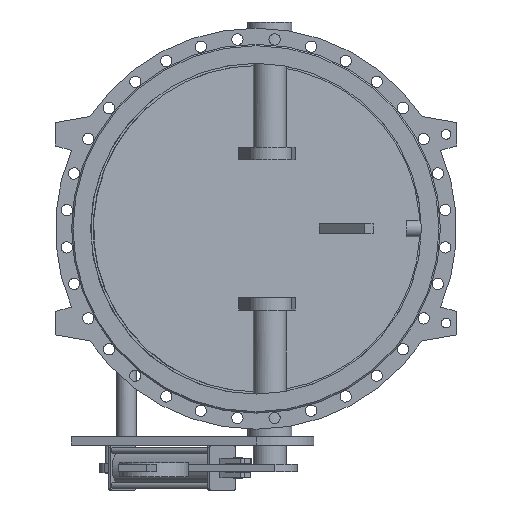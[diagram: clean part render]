
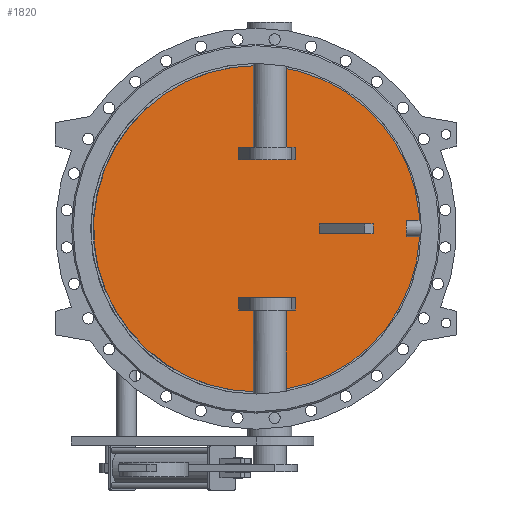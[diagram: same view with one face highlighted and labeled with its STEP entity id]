
A CAD part, front view. The second image highlights one B-rep face of the part: STEP entity #1820.
In plain terms, the highlighted planar face has unit normal (0.131, -0.991, 0).
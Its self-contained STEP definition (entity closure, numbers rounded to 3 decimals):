
#1820=ADVANCED_FACE('',(#4085,#4087,#4089,#4091),#4093,.T.);
#4085=FACE_BOUND('',#4086,.T.);
#4086=EDGE_LOOP('',(#5306));
#4087=FACE_BOUND('',#4088,.T.);
#4088=EDGE_LOOP('',(#5307,#5308,#5309,#5310));
#4089=FACE_BOUND('',#4090,.T.);
#4090=EDGE_LOOP('',(#5311,#5312,#5313,#5314));
#4091=FACE_BOUND('',#4092,.T.);
#4092=EDGE_LOOP('',(#5315,#5316,#5317,#5318));
#4093=PLANE('',#4094);
#4094=AXIS2_PLACEMENT_3D('',#4095,#4096,#4097);
#4095=CARTESIAN_POINT('',(-1.272,9.66,0.));
#4096=DIRECTION('',(0.131,-0.991,0.));
#4097=DIRECTION('',(0.,0.,-1.));
#5306=ORIENTED_EDGE('',*,*,#5855,.T.);
#5307=ORIENTED_EDGE('',*,*,#5872,.F.);
#5308=ORIENTED_EDGE('',*,*,#5873,.F.);
#5309=ORIENTED_EDGE('',*,*,#5874,.F.);
#5310=ORIENTED_EDGE('',*,*,#5875,.F.);
#5311=ORIENTED_EDGE('',*,*,#5876,.F.);
#5312=ORIENTED_EDGE('',*,*,#5877,.F.);
#5313=ORIENTED_EDGE('',*,*,#5878,.F.);
#5314=ORIENTED_EDGE('',*,*,#5879,.F.);
#5315=ORIENTED_EDGE('',*,*,#5880,.F.);
#5316=ORIENTED_EDGE('',*,*,#5881,.F.);
#5317=ORIENTED_EDGE('',*,*,#5882,.F.);
#5318=ORIENTED_EDGE('',*,*,#5883,.F.);
#5855=EDGE_CURVE('',#6695,#6695,#6696,.T.);
#5872=EDGE_CURVE('',#6729,#6730,#6731,.T.);
#5873=EDGE_CURVE('',#6732,#6729,#6733,.F.);
#5874=EDGE_CURVE('',#6734,#6732,#6735,.T.);
#5875=EDGE_CURVE('',#6730,#6734,#6736,.T.);
#5876=EDGE_CURVE('',#6737,#6738,#6739,.F.);
#5877=EDGE_CURVE('',#6740,#6737,#6741,.T.);
#5878=EDGE_CURVE('',#6742,#6740,#6743,.T.);
#5879=EDGE_CURVE('',#6738,#6742,#6744,.T.);
#5880=EDGE_CURVE('',#6745,#6746,#6747,.T.);
#5881=EDGE_CURVE('',#6748,#6745,#6749,.F.);
#5882=EDGE_CURVE('',#6750,#6748,#6751,.F.);
#5883=EDGE_CURVE('',#6746,#6750,#6752,.F.);
#6695=VERTEX_POINT('',#9954);
#6696=(BOUNDED_CURVE()B_SPLINE_CURVE(3,
(#9955,#9956,#9957,#9958,#9959,#9960,#9961,#9962,#9963,#9964,#9965,#9966,#9967,#9968,
#9969,#9970,#9971,#9972,#9973,#9974,#9975,#9976,#9977,#9978,#9979,#9980,#9981,#9982,
#9983,#9984,#9985,#9986,#9987,#9988,#9989,#9990,#9991,#9992,#9993,#9994,#9995,#9996,
#9997,#9998,#9999,#10000,#10001,#10002,#10003,#10004,#10005),
.UNSPECIFIED.,.T.,.F.)B_SPLINE_CURVE_WITH_KNOTS((4,1,1,1,1,1,1,1,1,1,1,1,1,1,1,1,
1,1,1,1,1,1,1,1,1,1,1,1,1,1,1,1,1,1,1,1,1,1,1,1,1,1,1,1,1,1,1,1,4),
(0.,0.021,0.042,0.063,0.084,
0.105,0.126,0.147,0.168,0.189,
0.211,0.232,0.253,0.274,0.295,
0.316,0.337,0.358,0.379,0.4,
0.421,0.442,0.463,0.484,0.505,
0.527,0.548,0.569,0.59,0.611,
0.632,0.653,0.674,0.695,0.716,
0.737,0.758,0.779,0.8,0.821,
0.842,0.863,0.885,0.906,0.927,
0.948,0.969,0.986,1.),
.UNSPECIFIED.)CURVE()GEOMETRIC_REPRESENTATION_ITEM()RATIONAL_B_SPLINE_CURVE((1.,
1.,1.,1.,1.,1.,1.,1.,1.,1.,1.,1.,1.,1.,1.,1.,1.,1.,1.,1.,1.,1.,1.,1.,1.,1.,1.,1.,
1.,1.,1.,1.,1.,1.,1.,1.,1.,1.,1.,1.,1.,1.,1.,1.,1.,1.,1.,1.,1.,1.,1.))REPRESENTATION_ITEM(
''));
#6729=VERTEX_POINT('',#10389);
#6730=VERTEX_POINT('',#10390);
#6731=LINE('',#10391,#10392);
#6732=VERTEX_POINT('',#10394);
#6733=LINE('',#10395,#10396);
#6734=VERTEX_POINT('',#10398);
#6735=LINE('',#10399,#10400);
#6736=LINE('',#10402,#10403);
#6737=VERTEX_POINT('',#10405);
#6738=VERTEX_POINT('',#10406);
#6739=LINE('',#10407,#10408);
#6740=VERTEX_POINT('',#10410);
#6741=LINE('',#10411,#10412);
#6742=VERTEX_POINT('',#10414);
#6743=LINE('',#10415,#10416);
#6744=LINE('',#10418,#10419);
#6745=VERTEX_POINT('',#10421);
#6746=VERTEX_POINT('',#10422);
#6747=LINE('',#10423,#10424);
#6748=VERTEX_POINT('',#10426);
#6749=LINE('',#10427,#10428);
#6750=VERTEX_POINT('',#10430);
#6751=LINE('',#10431,#10432);
#6752=LINE('',#10434,#10435);
#9954=CARTESIAN_POINT('',(2.611,10.171,592.));
#9955=CARTESIAN_POINT('',(2.611,10.171,592.));
#9956=CARTESIAN_POINT('',(-23.409,6.746,592.));
#9957=CARTESIAN_POINT('',(-75.508,-0.113,588.561));
#9958=CARTESIAN_POINT('',(-152.394,-10.236,573.144));
#9959=CARTESIAN_POINT('',(-226.675,-20.015,547.685));
#9960=CARTESIAN_POINT('',(-296.984,-29.271,512.622));
#9961=CARTESIAN_POINT('',(-362.029,-37.835,468.6));
#9962=CARTESIAN_POINT('',(-420.688,-45.557,416.384));
#9963=CARTESIAN_POINT('',(-471.934,-52.304,356.896));
#9964=CARTESIAN_POINT('',(-514.877,-57.957,291.176));
#9965=CARTESIAN_POINT('',(-548.769,-62.419,220.375));
#9966=CARTESIAN_POINT('',(-573.023,-65.612,145.729));
#9967=CARTESIAN_POINT('',(-587.217,-67.481,68.541));
#9968=CARTESIAN_POINT('',(-591.105,-67.993,-9.844));
#9969=CARTESIAN_POINT('',(-584.62,-67.139,-88.057));
#9970=CARTESIAN_POINT('',(-567.873,-64.934,-164.737));
#9971=CARTESIAN_POINT('',(-541.154,-61.417,-238.545));
#9972=CARTESIAN_POINT('',(-504.926,-56.647,-308.191));
#9973=CARTESIAN_POINT('',(-459.818,-50.709,-372.458));
#9974=CARTESIAN_POINT('',(-406.614,-43.704,-430.221));
#9975=CARTESIAN_POINT('',(-346.242,-35.756,-480.466));
#9976=CARTESIAN_POINT('',(-279.755,-27.003,-522.309));
#9977=CARTESIAN_POINT('',(-208.316,-17.598,-555.013));
#9978=CARTESIAN_POINT('',(-133.176,-7.705,-578.001));
#9979=CARTESIAN_POINT('',(-55.653,2.501,-590.868));
#9980=CARTESIAN_POINT('',(22.891,12.841,-593.387));
#9981=CARTESIAN_POINT('',(101.078,23.135,-585.513));
#9982=CARTESIAN_POINT('',(177.534,33.2,-567.386));
#9983=CARTESIAN_POINT('',(250.92,42.862,-539.328));
#9984=CARTESIAN_POINT('',(319.949,51.95,-501.833));
#9985=CARTESIAN_POINT('',(383.415,60.305,-455.564));
#9986=CARTESIAN_POINT('',(440.209,67.782,-401.332));
#9987=CARTESIAN_POINT('',(489.343,74.251,-340.091));
#9988=CARTESIAN_POINT('',(529.96,79.598,-272.913));
#9989=CARTESIAN_POINT('',(561.356,83.731,-200.972));
#9990=CARTESIAN_POINT('',(582.986,86.579,-125.526));
#9991=CARTESIAN_POINT('',(594.473,88.091,-47.889));
#9992=CARTESIAN_POINT('',(595.62,88.242,30.583));
#9993=CARTESIAN_POINT('',(586.405,87.029,108.523));
#9994=CARTESIAN_POINT('',(566.987,84.473,184.572));
#9995=CARTESIAN_POINT('',(537.704,80.617,257.403));
#9996=CARTESIAN_POINT('',(499.062,75.53,325.744));
#9997=CARTESIAN_POINT('',(451.733,69.299,388.397));
#9998=CARTESIAN_POINT('',(396.537,62.033,444.269));
#9999=CARTESIAN_POINT('',(334.456,53.859,492.362));
#10000=CARTESIAN_POINT('',(266.649,44.932,531.797));
#10001=CARTESIAN_POINT('',(194.096,35.381,562.018));
#10002=CARTESIAN_POINT('',(122.536,25.96,581.218));
#10003=CARTESIAN_POINT('',(58.198,17.489,590.338));
#10004=CARTESIAN_POINT('',(19.599,12.408,592.));
#10005=CARTESIAN_POINT('',(2.611,10.171,592.));
#10389=CARTESIAN_POINT('',(398.546,62.297,-17.5));
#10390=CARTESIAN_POINT('',(398.546,62.297,17.5));
#10391=CARTESIAN_POINT('',(398.546,62.297,-17.5));
#10392=VECTOR('',#10393,1.);
#10393=DIRECTION('',(0.,0.,1.));
#10394=CARTESIAN_POINT('',(230.,40.107,-17.5));
#10395=CARTESIAN_POINT('',(398.546,62.297,-17.5));
#10396=VECTOR('',#10397,1.);
#10397=DIRECTION('',(-0.991,-0.131,0.));
#10398=CARTESIAN_POINT('',(230.,40.107,17.5));
#10399=CARTESIAN_POINT('',(230.,40.107,17.5));
#10400=VECTOR('',#10401,1.);
#10401=DIRECTION('',(0.,0.,-1.));
#10402=CARTESIAN_POINT('',(398.546,62.297,17.5));
#10403=VECTOR('',#10404,1.);
#10404=DIRECTION('',(-0.991,-0.131,0.));
#10405=CARTESIAN_POINT('',(-62.127,1.648,-295.));
#10406=CARTESIAN_POINT('',(142.351,28.568,-295.));
#10407=CARTESIAN_POINT('',(142.351,28.568,-295.));
#10408=VECTOR('',#10409,1.);
#10409=DIRECTION('',(-0.991,-0.131,0.));
#10410=CARTESIAN_POINT('',(-62.127,1.648,-250.));
#10411=CARTESIAN_POINT('',(-62.127,1.648,-250.));
#10412=VECTOR('',#10413,1.);
#10413=DIRECTION('',(0.,0.,-1.));
#10414=CARTESIAN_POINT('',(142.351,28.568,-250.));
#10415=CARTESIAN_POINT('',(142.351,28.568,-250.));
#10416=VECTOR('',#10417,1.);
#10417=DIRECTION('',(-0.991,-0.131,0.));
#10418=CARTESIAN_POINT('',(142.351,28.568,-295.));
#10419=VECTOR('',#10420,1.);
#10420=DIRECTION('',(0.,0.,1.));
#10421=CARTESIAN_POINT('',(142.351,28.568,295.));
#10422=CARTESIAN_POINT('',(-62.127,1.648,295.));
#10423=CARTESIAN_POINT('',(142.351,28.568,295.));
#10424=VECTOR('',#10425,1.);
#10425=DIRECTION('',(-0.991,-0.131,0.));
#10426=CARTESIAN_POINT('',(142.351,28.568,250.));
#10427=CARTESIAN_POINT('',(142.351,28.568,295.));
#10428=VECTOR('',#10429,1.);
#10429=DIRECTION('',(0.,0.,-1.));
#10430=CARTESIAN_POINT('',(-62.127,1.648,250.));
#10431=CARTESIAN_POINT('',(142.351,28.568,250.));
#10432=VECTOR('',#10433,1.);
#10433=DIRECTION('',(-0.991,-0.131,0.));
#10434=CARTESIAN_POINT('',(-62.127,1.648,250.));
#10435=VECTOR('',#10436,1.);
#10436=DIRECTION('',(0.,0.,1.));
